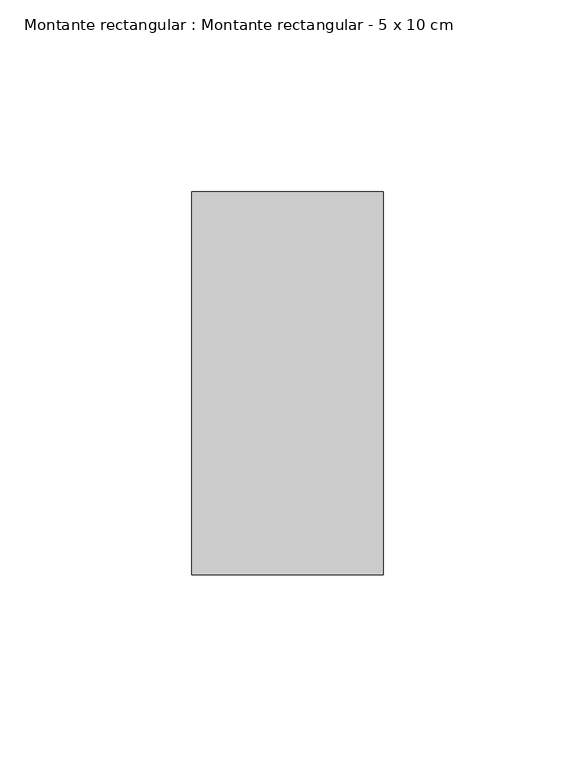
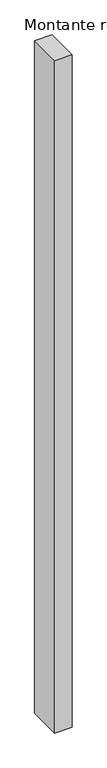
"""IFC4 building model written with IfcOpenShell, lengths in millimetres: member geometry, Montante rectangular : Montante rectangular - 5 x 10 cm."""

import ifcopenshell
import ifcopenshell.guid

model = None  # the IFC model being written
_history = None  # IfcOwnerHistory: only IFC2X3 demands one
_inside = {}  # id of a spatial element -> (the spatial element, [elements in it])
_under = {}  # id of a project, library or spatial element -> (it, [spatial elements below it])
_declared = {}  # id of a project -> (the project, [libraries it declares])
_typed = {}  # id of a type object -> (the type object, [elements of that type])
_made_of = {}  # id of a material, layer set ... -> (it, [elements and type objects made of it])


def new_model(schema):
    """Start an empty IFC model of exactly this schema.

    Asked for "IFC4X3", IfcOpenShell would pick the latest addendum, in which some entities
    have other attributes; the version numbers below select the first issue.
    IFC2X3 requires an IfcOwnerHistory on every rooted entity: one is made here for all.
    """
    global model, _history
    if schema == "IFC4X3":
        model = ifcopenshell.file(schema_version=(4, 3, 0, 0))
    else:
        model = ifcopenshell.file(schema=schema)
    _inside.clear()
    _under.clear()
    _declared.clear()
    _typed.clear()
    _made_of.clear()
    _history = None
    if model.schema == "IFC2X3":
        org = make("IfcOrganization", Name="unknown")
        user = make(
            "IfcPersonAndOrganization",
            ThePerson=make("IfcPerson", FamilyName="unknown"),
            TheOrganization=org,
        )
        app = make(
            "IfcApplication",
            ApplicationDeveloper=org,
            Version="unknown",
            ApplicationFullName="unknown",
            ApplicationIdentifier="unknown",
        )
        _history = make(
            "IfcOwnerHistory",
            OwningUser=user,
            OwningApplication=app,
            ChangeAction="ADDED",
            CreationDate=0,
        )
    return model


def make(cls, **values):
    """One entity of the class cls with the attributes given. An attribute that is None is left unset."""
    return model.create_entity(
        cls, **{name: value for name, value in values.items() if value is not None}
    )


def rooted(cls, **values):
    """An entity with a GlobalId (a new one), such as an element, a storey or a relation."""
    return make(cls, GlobalId=ifcopenshell.guid.new(), OwnerHistory=_history, **values)


def si_unit(unit_type, name, prefix=None):
    """IfcSIUnit, for example si_unit("LENGTHUNIT", "METRE", prefix="MILLI")."""
    return make("IfcSIUnit", UnitType=unit_type, Prefix=prefix, Name=name)


def assignment(units):
    """IfcUnitAssignment: the units of a project."""
    return None if units is None else make("IfcUnitAssignment", Units=units)


def point(xyz):
    """IfcCartesianPoint."""
    return None if xyz is None else make("IfcCartesianPoint", Coordinates=xyz)


def direction(xyz):
    """IfcDirection."""
    return None if xyz is None else make("IfcDirection", DirectionRatios=xyz)


def frame(location, z_axis=None, x_axis=None):
    """IfcAxis2Placement3D, a coordinate frame: its origin and axes. An axis left out is left unset."""
    return make(
        "IfcAxis2Placement3D",
        Location=point(location),
        Axis=direction(z_axis),
        RefDirection=direction(x_axis),
    )


def origin():
    """The frame at (0, 0, 0) with its axes left unset."""
    return frame((0.0, 0.0, 0.0))


def place(relative_to, where):
    """IfcLocalPlacement: puts the frame where relative to a parent placement (None: the world)."""
    return make(
        "IfcLocalPlacement", PlacementRelTo=relative_to, RelativePlacement=where
    )


def context(
    kind, dimensions, precision=None, world=None, true_north=None, identifier=None
):
    """IfcGeometricRepresentationContext, for example the 3D "Model" context."""
    return make(
        "IfcGeometricRepresentationContext",
        ContextIdentifier=identifier,
        ContextType=kind,
        CoordinateSpaceDimension=dimensions,
        Precision=precision,
        WorldCoordinateSystem=world,
        TrueNorth=true_north,
    )


def project(units=None, contexts=None):
    """IfcProject with its units and contexts."""
    return rooted(
        "IfcProject",
        Name="project",
        RepresentationContexts=contexts,
        UnitsInContext=assignment(units),
    )


def spatial(cls, under=None, at=None, **own):
    """A site, building, storey or space (cls), placed at a placement, below another one or the project."""
    s = rooted(cls, ObjectPlacement=at, **own)
    if under is not None:
        _under.setdefault(under.id(), (under, []))[1].append(s)
    return s


def polyline(points):
    """IfcPolyline through the points."""
    return make("IfcPolyline", Points=[point(p) for p in points])


def outline(outer, holes=None, kind="AREA"):
    """IfcArbitraryClosedProfileDef: a profile drawn as a closed curve; with holes, ...WithVoids."""
    if holes is None:
        return make("IfcArbitraryClosedProfileDef", ProfileType=kind, OuterCurve=outer)
    return make(
        "IfcArbitraryProfileDefWithVoids",
        ProfileType=kind,
        OuterCurve=outer,
        InnerCurves=holes,
    )


def extrude(swept, where, along, depth):
    """IfcExtrudedAreaSolid: the profile swept, set in the frame where, extruded along a direction by depth."""
    return make(
        "IfcExtrudedAreaSolid",
        SweptArea=swept,
        Position=where,
        ExtrudedDirection=direction(along),
        Depth=depth,
    )


def shape(context_of_items, identifier, shape_type, items):
    """IfcShapeRepresentation: the items that make up one representation, for example the "Body"."""
    return make(
        "IfcShapeRepresentation",
        ContextOfItems=context_of_items,
        RepresentationIdentifier=identifier,
        RepresentationType=shape_type,
        Items=items,
    )


def source(mapping_origin, context_of_items, identifier, shape_type, items):
    """IfcRepresentationMap: a shape defined once, which mapped items show again and again."""
    return make(
        "IfcRepresentationMap",
        MappingOrigin=mapping_origin,
        MappedRepresentation=shape(context_of_items, identifier, shape_type, items),
    )


def transform(
    local_origin,
    x_axis=None,
    y_axis=None,
    z_axis=None,
    scale=None,
    scale2=None,
    scale3=None,
    uniform=True,
):
    """IfcCartesianTransformationOperator3D, or its non-uniform kind. x_axis, y_axis, z_axis: its Axis1, 2, 3."""
    if uniform:
        return make(
            "IfcCartesianTransformationOperator3D",
            Axis1=direction(x_axis),
            Axis2=direction(y_axis),
            LocalOrigin=point(local_origin),
            Scale=scale,
            Axis3=direction(z_axis),
        )
    return make(
        "IfcCartesianTransformationOperator3DnonUniform",
        Axis1=direction(x_axis),
        Axis2=direction(y_axis),
        LocalOrigin=point(local_origin),
        Scale=scale,
        Axis3=direction(z_axis),
        Scale2=scale2,
        Scale3=scale3,
    )


def mapped(mapping_source, mapping_target):
    """IfcMappedItem: shows the shape of a source again, moved by a transform."""
    return make(
        "IfcMappedItem", MappingSource=mapping_source, MappingTarget=mapping_target
    )


def made_of(thing, what):
    """Note that an element or type object is made of a material, layer set ...; save() writes the relation."""
    if what is not None:
        _made_of.setdefault(what.id(), (what, []))[1].append(thing)
    return thing


def element(
    cls,
    number,
    at=None,
    inside=None,
    cuts=None,
    type_object=None,
    material=None,
    context=None,
    identifier="Body",
    shape_type=None,
    held_by="IfcProductDefinitionShape",
    body=None,
    shapes=None,
    **own,
):
    """One element of the class cls, such as IfcWall. Its Tag is "e" and its number.

    at: its placement. inside: the storey or other place that contains it. cuts: it is an
    opening in that element (IfcRelVoidsElement). A single representation is given by context,
    identifier, shape_type and body (its items); several are given by shapes. held_by: the class
    of the entity that holds the representations. save() writes the other relations.
    """
    e = rooted(cls, Tag="e%d" % number, ObjectPlacement=at, **own)
    if body is not None:
        shapes = [shape(context, identifier, shape_type, body)]
    if shapes is not None:
        e.Representation = make(held_by, Representations=shapes)
    if inside is not None:
        _inside.setdefault(inside.id(), (inside, []))[1].append(e)
    if cuts is not None:
        rooted(
            "IfcRelVoidsElement", RelatingBuildingElement=cuts, RelatedOpeningElement=e
        )
    if type_object is not None:
        _typed.setdefault(type_object.id(), (type_object, []))[1].append(e)
    return made_of(e, material)


def aggregate(whole, parts):
    """IfcRelAggregates: a whole, such as a stair, and the parts it consists of."""
    return rooted("IfcRelAggregates", RelatingObject=whole, RelatedObjects=parts)


def save(model, path):
    """Write the relations noted so far, then the file.

    IfcRelAggregates (storeys below a building ...), IfcRelContainedInSpatialStructure (elements
    in a storey), IfcRelDefinesByType, IfcRelAssociatesMaterial and IfcRelDeclares: one each for
    every whole, place, type object, material and project.
    """
    for whole, parts in _under.values():
        aggregate(whole, parts)
    for where, things in _inside.values():
        rooted(
            "IfcRelContainedInSpatialStructure",
            RelatedElements=things,
            RelatingStructure=where,
        )
    for kind, things in _typed.values():
        rooted("IfcRelDefinesByType", RelatedObjects=things, RelatingType=kind)
    for what, things in _made_of.values():
        rooted("IfcRelAssociatesMaterial", RelatedObjects=things, RelatingMaterial=what)
    for by, libraries in _declared.values():
        rooted("IfcRelDeclares", RelatingContext=by, RelatedDefinitions=libraries)
    model.write(path)


def montante_rectangular_montante_rectangular_5_x_10_cm_95ea561a(model_context):
    return source(origin(), model_context, "Body", "SweptSolid", [
        extrude(outline(polyline([(-50.0, 50.0), (0.0, 50.0), (0.0, -50.0), (-50.0, -50.0), (-50.0, 50.0)])), frame((0.0, 0.0, -2046.8992926), z_axis=(0.0, 0.0, 1.0), x_axis=(1.0, 0.0, 0.0)), (0.0, 0.0, 1.0), 2046.8992926),
    ])


if __name__ == "__main__":
    model = new_model("IFC4")
    model_context = context("Model", 3, world=origin())
    ifc_project = project(units=[si_unit("LENGTHUNIT", "METRE", prefix="MILLI")], contexts=[model_context])
    site = spatial("IfcSite", under=ifc_project)
    building = spatial("IfcBuilding", under=site)
    placement = place(None, origin())
    montante_rectangular_montante_rectangular_5_x_10_cm_shape = montante_rectangular_montante_rectangular_5_x_10_cm_95ea561a(model_context)
    element("IfcMember", 1, ObjectType="Montante rectangular : Montante rectangular - 5 x 10 cm", at=placement, inside=building, context=model_context, shape_type="MappedRepresentation", body=[
        mapped(montante_rectangular_montante_rectangular_5_x_10_cm_shape, transform((0.0, 0.0, 0.0), x_axis=(1.0, 0.0, 0.0), y_axis=(0.0, 1.0, 0.0), z_axis=(0.0, 0.0, 1.0))),
    ])
    save(model, "model.ifc")
